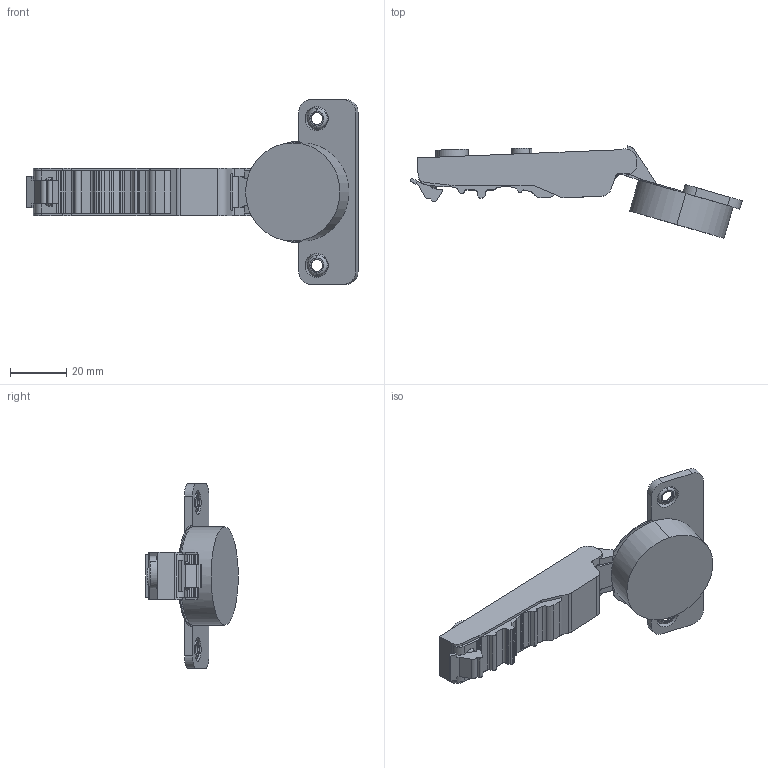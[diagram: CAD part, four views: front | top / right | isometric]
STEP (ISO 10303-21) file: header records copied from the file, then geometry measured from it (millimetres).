
FILE_DESCRIPTION (( 'STEP AP203' ), '1' );
FILE_NAME ('C82A677FA-DTC 3D open.STEP', '2024-07-10T09:05:30', ( '微软用户' ), ( '微软中国' ), 'SwSTEP 2.0', 'SolidWorks 2021', '' );
FILE_SCHEMA (( 'CONFIG_CONTROL_DESIGN' ));
Length unit declared in the file: millimetre
Products named in the file (1): C82A677FA-DTC 3D open
Bounding box: 117.71 x 32.77 x 65.56 mm (x, y, z)
Volume: 33090.3 mm3; surface area: 11276.4 mm2
Topology: 1 solids, 1 shells, 228 faces, 634 edges, 412 vertices
Faces by surface type: cylinder 98, plane 90, torus 24, cone 8, bspline 8
Entity records: 7663 total; most frequent: CARTESIAN_POINT 1673, ORIENTED_EDGE 1268, DIRECTION 1258, EDGE_CURVE 634, AXIS2_PLACEMENT_3D 462, VERTEX_POINT 412, VECTOR 334, LINE 334
